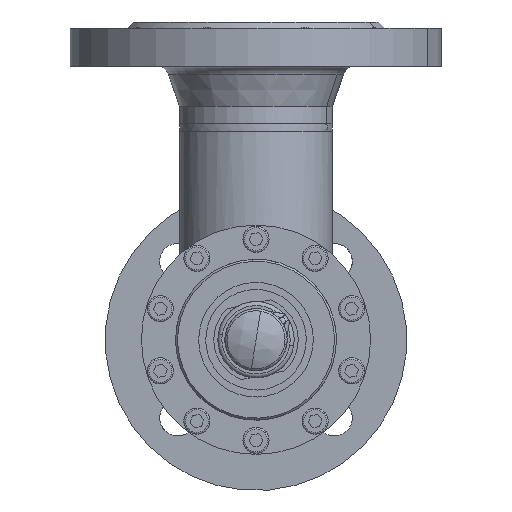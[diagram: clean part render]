
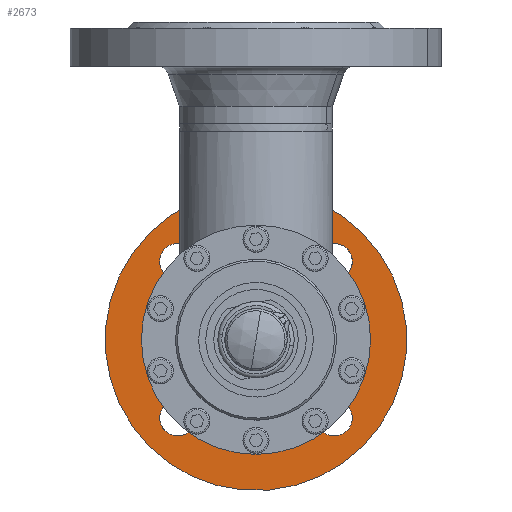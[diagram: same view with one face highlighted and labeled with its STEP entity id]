
A CAD part, front view. The second image highlights one B-rep face of the part: STEP entity #2673.
In plain terms, the highlighted planar face has unit normal (0, -1, 0) as drawn and (0, 1, 0) by its records, which use the part's own axes.
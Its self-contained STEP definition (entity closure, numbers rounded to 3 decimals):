
#24 = CIRCLE ( 'NONE', #25, 36.091 ) ;
#25 = AXIS2_PLACEMENT_3D ( 'NONE', #26, #27, #28 ) ;
#26 = CARTESIAN_POINT ( 'NONE',  ( 0., 18., 0. ) ) ;
#27 = DIRECTION ( 'NONE',  ( 0., 1., 0. ) ) ;
#28 = DIRECTION ( 'NONE',  ( -1., 0., 0. ) ) ;
#405 = EDGE_CURVE ( 'NONE', #27177, #29412, #25471, .T. ) ;
#1022 = CARTESIAN_POINT ( 'NONE',  ( -64., 18., 0. ) ) ;
#1023 = CARTESIAN_POINT ( 'NONE',  ( 75., 18., 0. ) ) ;
#1157 = ORIENTED_EDGE ( 'NONE', *, *, #405, .F. ) ;
#1174 = CIRCLE ( 'NONE', #1175, 9. ) ;
#1175 = AXIS2_PLACEMENT_3D ( 'NONE', #1176, #1177, #1178 ) ;
#1176 = CARTESIAN_POINT ( 'NONE',  ( 0., 18., 55. ) ) ;
#1177 = DIRECTION ( 'NONE',  ( 0., 1., 0. ) ) ;
#1178 = DIRECTION ( 'NONE',  ( 0., 0., -1. ) ) ;
#1279 = CIRCLE ( 'NONE', #1280, 9. ) ;
#1280 = AXIS2_PLACEMENT_3D ( 'NONE', #1281, #1282, #1309 ) ;
#1281 = CARTESIAN_POINT ( 'NONE',  ( -55., 18., 0. ) ) ;
#1282 = DIRECTION ( 'NONE',  ( 0., 1., 0. ) ) ;
#1309 = DIRECTION ( 'NONE',  ( 1., 0., 0. ) ) ;
#2195 = EDGE_LOOP ( 'NONE', ( #1157, #30196 ) ) ;
#18836 = EDGE_CURVE ( 'NONE', #4831, #19046, #19739, .T. ) ;
#19046 = VERTEX_POINT ( 'NONE', #19889 ) ;
#2673 = ADVANCED_FACE ( 'NONE', ( #29268, #29269, #29270, #29271, #29272, #29273 ), #29274, .F. ) ;
#19253 = ORIENTED_EDGE ( 'NONE', *, *, #18836, .T. ) ;
#19301 = EDGE_CURVE ( 'NONE', #19046, #4831, #20118, .T. ) ;
#3348 = CARTESIAN_POINT ( 'NONE',  ( -46., 18., 0. ) ) ;
#19739 = CIRCLE ( 'NONE', #19740, 75. ) ;
#19740 = AXIS2_PLACEMENT_3D ( 'NONE', #19741, #19742, #19743 ) ;
#19741 = CARTESIAN_POINT ( 'NONE',  ( 0., 18., 0. ) ) ;
#19742 = DIRECTION ( 'NONE',  ( 0., 1., 0. ) ) ;
#19743 = DIRECTION ( 'NONE',  ( -1., 0., 0. ) ) ;
#19791 = ORIENTED_EDGE ( 'NONE', *, *, #19301, .T. ) ;
#3462 = EDGE_CURVE ( 'NONE', #23794, #25066, #30601, .T. ) ;
#19889 = CARTESIAN_POINT ( 'NONE',  ( -75., 18., 0. ) ) ;
#20118 = CIRCLE ( 'NONE', #20119, 75. ) ;
#20119 = AXIS2_PLACEMENT_3D ( 'NONE', #20120, #20121, #20122 ) ;
#20120 = CARTESIAN_POINT ( 'NONE',  ( 0., 18., 0. ) ) ;
#20121 = DIRECTION ( 'NONE',  ( 0., 1., 0. ) ) ;
#20122 = DIRECTION ( 'NONE',  ( -1., 0., 0. ) ) ;
#4830 = VERTEX_POINT ( 'NONE', #1022 ) ;
#4831 = VERTEX_POINT ( 'NONE', #1023 ) ;
#5063 = EDGE_LOOP ( 'NONE', ( #19791, #19253 ) ) ;
#5274 = CARTESIAN_POINT ( 'NONE',  ( 36.091, 18., 0. ) ) ;
#5280 = EDGE_CURVE ( 'NONE', #7057, #4830, #1279, .T. ) ;
#5546 = ORIENTED_EDGE ( 'NONE', *, *, #24049, .F. ) ;
#6581 = ORIENTED_EDGE ( 'NONE', *, *, #3462, .F. ) ;
#7057 = VERTEX_POINT ( 'NONE', #3348 ) ;
#23794 = VERTEX_POINT ( 'NONE', #30514 ) ;
#7619 = EDGE_LOOP ( 'NONE', ( #6581, #5546 ) ) ;
#24009 = VERTEX_POINT ( 'NONE', #30783 ) ;
#24049 = EDGE_CURVE ( 'NONE', #25066, #23794, #24, .T. ) ;
#24262 = EDGE_CURVE ( 'NONE', #13585, #24009, #1174, .T. ) ;
#8094 = ORIENTED_EDGE ( 'NONE', *, *, #27284, .F. ) ;
#25066 = VERTEX_POINT ( 'NONE', #5274 ) ;
#8764 = CIRCLE ( 'NONE', #8765, 9. ) ;
#8765 = AXIS2_PLACEMENT_3D ( 'NONE', #8766, #8767, #8768 ) ;
#8766 = CARTESIAN_POINT ( 'NONE',  ( 55., 18., 0. ) ) ;
#8767 = DIRECTION ( 'NONE',  ( 0., 1., 0. ) ) ;
#8768 = DIRECTION ( 'NONE',  ( -1., 0., 0. ) ) ;
#25471 = CIRCLE ( 'NONE', #25472, 9. ) ;
#25472 = AXIS2_PLACEMENT_3D ( 'NONE', #25473, #25474, #25475 ) ;
#25473 = CARTESIAN_POINT ( 'NONE',  ( 0., 18., -55. ) ) ;
#25474 = DIRECTION ( 'NONE',  ( 0., 1., 0. ) ) ;
#25475 = DIRECTION ( 'NONE',  ( 0., 0., 1. ) ) ;
#9136 = EDGE_CURVE ( 'NONE', #26840, #29073, #8764, .T. ) ;
#26056 = EDGE_LOOP ( 'NONE', ( #13052, #11406 ) ) ;
#9884 = ORIENTED_EDGE ( 'NONE', *, *, #9136, .F. ) ;
#26535 = ORIENTED_EDGE ( 'NONE', *, *, #5280, .F. ) ;
#10425 = CARTESIAN_POINT ( 'NONE',  ( 46., 18., 0. ) ) ;
#26840 = VERTEX_POINT ( 'NONE', #10425 ) ;
#27177 = VERTEX_POINT ( 'NONE', #11061 ) ;
#27284 = EDGE_CURVE ( 'NONE', #29073, #26840, #11103, .T. ) ;
#10924 = EDGE_LOOP ( 'NONE', ( #9884, #8094 ) ) ;
#11061 = CARTESIAN_POINT ( 'NONE',  ( -9., 18., -55. ) ) ;
#11103 = CIRCLE ( 'NONE', #11104, 9. ) ;
#11104 = AXIS2_PLACEMENT_3D ( 'NONE', #11105, #11126, #11127 ) ;
#11105 = CARTESIAN_POINT ( 'NONE',  ( 55., 18., 0. ) ) ;
#11126 = DIRECTION ( 'NONE',  ( 0., 1., 0. ) ) ;
#11127 = DIRECTION ( 'NONE',  ( -1., 0., 0. ) ) ;
#27576 = EDGE_CURVE ( 'NONE', #4830, #7057, #11323, .T. ) ;
#27618 = EDGE_CURVE ( 'NONE', #29412, #27177, #11369, .T. ) ;
#11323 = CIRCLE ( 'NONE', #11324, 9. ) ;
#11324 = AXIS2_PLACEMENT_3D ( 'NONE', #11325, #11326, #11327 ) ;
#11325 = CARTESIAN_POINT ( 'NONE',  ( -55., 18., 0. ) ) ;
#11326 = DIRECTION ( 'NONE',  ( 0., 1., 0. ) ) ;
#11327 = DIRECTION ( 'NONE',  ( 1., 0., 0. ) ) ;
#11369 = CIRCLE ( 'NONE', #11387, 9. ) ;
#11387 = AXIS2_PLACEMENT_3D ( 'NONE', #11388, #11389, #11390 ) ;
#11388 = CARTESIAN_POINT ( 'NONE',  ( 0., 18., -55. ) ) ;
#11389 = DIRECTION ( 'NONE',  ( 0., 1., 0. ) ) ;
#11390 = DIRECTION ( 'NONE',  ( 0., 0., 1. ) ) ;
#11406 = ORIENTED_EDGE ( 'NONE', *, *, #24262, .F. ) ;
#28323 = ORIENTED_EDGE ( 'NONE', *, *, #27576, .F. ) ;
#12279 = CIRCLE ( 'NONE', #12280, 9. ) ;
#12280 = AXIS2_PLACEMENT_3D ( 'NONE', #12281, #12282, #12306 ) ;
#12281 = CARTESIAN_POINT ( 'NONE',  ( 0., 18., 55. ) ) ;
#12282 = DIRECTION ( 'NONE',  ( 0., 1., 0. ) ) ;
#12306 = DIRECTION ( 'NONE',  ( 0., 0., -1. ) ) ;
#12453 = EDGE_CURVE ( 'NONE', #24009, #13585, #12279, .T. ) ;
#29073 = VERTEX_POINT ( 'NONE', #12964 ) ;
#29268 = FACE_BOUND ( 'NONE', #2195, .T. ) ;
#29269 = FACE_BOUND ( 'NONE', #29714, .T. ) ;
#29270 = FACE_BOUND ( 'NONE', #26056, .T. ) ;
#29271 = FACE_BOUND ( 'NONE', #10924, .T. ) ;
#29272 = FACE_BOUND ( 'NONE', #7619, .T. ) ;
#29273 = FACE_OUTER_BOUND ( 'NONE', #5063, .T. ) ;
#29274 = PLANE ( 'NONE',  #29275 ) ;
#29275 = AXIS2_PLACEMENT_3D ( 'NONE', #29276, #29300, #29301 ) ;
#29276 = CARTESIAN_POINT ( 'NONE',  ( 75., 18., 0. ) ) ;
#29300 = DIRECTION ( 'NONE',  ( 0., -1., 0. ) ) ;
#29301 = DIRECTION ( 'NONE',  ( 1., 0., 0. ) ) ;
#12964 = CARTESIAN_POINT ( 'NONE',  ( 64., 18., 0. ) ) ;
#29412 = VERTEX_POINT ( 'NONE', #13429 ) ;
#13052 = ORIENTED_EDGE ( 'NONE', *, *, #12453, .F. ) ;
#13272 = CARTESIAN_POINT ( 'NONE',  ( 9., 18., 55. ) ) ;
#29714 = EDGE_LOOP ( 'NONE', ( #28323, #26535 ) ) ;
#13429 = CARTESIAN_POINT ( 'NONE',  ( 9., 18., -55. ) ) ;
#13585 = VERTEX_POINT ( 'NONE', #13272 ) ;
#30196 = ORIENTED_EDGE ( 'NONE', *, *, #27618, .F. ) ;
#30514 = CARTESIAN_POINT ( 'NONE',  ( -36.091, 18., 0. ) ) ;
#30601 = CIRCLE ( 'NONE', #30602, 36.091 ) ;
#30602 = AXIS2_PLACEMENT_3D ( 'NONE', #30603, #30604, #30605 ) ;
#30603 = CARTESIAN_POINT ( 'NONE',  ( 0., 18., 0. ) ) ;
#30604 = DIRECTION ( 'NONE',  ( 0., 1., 0. ) ) ;
#30605 = DIRECTION ( 'NONE',  ( -1., 0., 0. ) ) ;
#30783 = CARTESIAN_POINT ( 'NONE',  ( -9., 18., 55. ) ) ;
